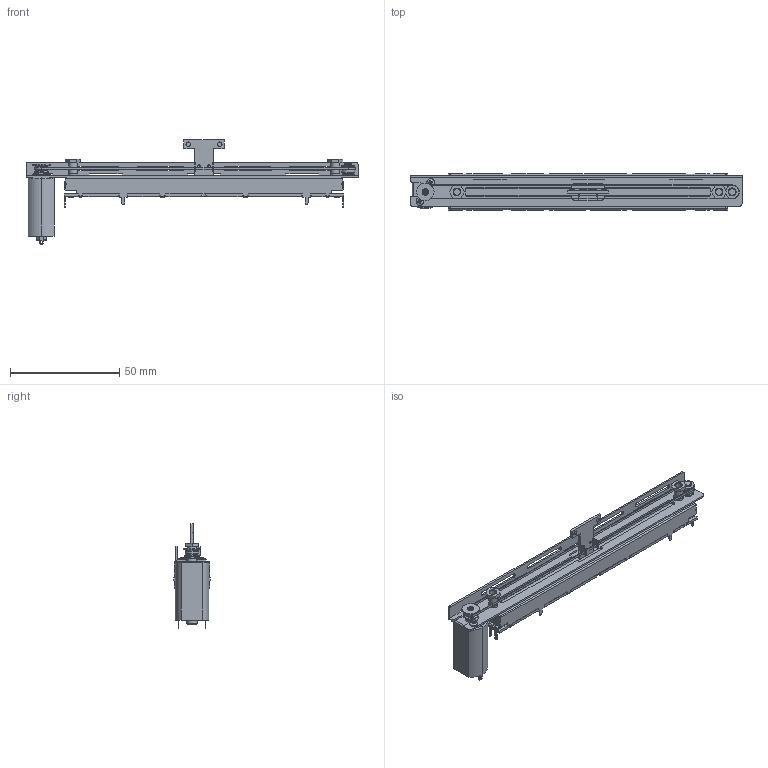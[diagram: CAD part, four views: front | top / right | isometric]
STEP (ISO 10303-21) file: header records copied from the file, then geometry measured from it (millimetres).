
FILE_DESCRIPTION(('FreeCAD Model'),'2;1');
FILE_NAME('Open CASCADE Shape Model','2023-03-17T16:16:45',(''),(''), 'Open CASCADE STEP processor 7.6','FreeCAD','Unknown');
FILE_SCHEMA(('AUTOMOTIVE_DESIGN { 1 0 10303 214 1 1 1 1 }'));
Products named in the file (1): Fusion002016
Bounding box: 152 x 16.5 x 47.8 mm (x, y, z)
Volume: 24638.4 mm3; surface area: 21594.7 mm2
Topology: 5 solids, 9 shells, 1305 faces, 3358 edges, 2083 vertices
Faces by surface type: plane 940, cylinder 322, cone 34, torus 6, sphere 2, bspline 1
Full cylindrical faces by diameter (mm): 0.5 x24, 1.2 x6, 1.25 x2, 1.3 x1, 1.5 x1, 2 x9, 3 x8, 3.2 x2, 3.5 x5, 3.7 x1, 4 x3, 4.5 x2, 4.7 x2, 5 x2, 5.38 x1, 5.6 x1, 6 x2, 6.5 x1, 8 x1
Entity records: 88649 total; most frequent: CARTESIAN_POINT 18593, DIRECTION 10670, ORIENTED_EDGE 7060, PCURVE 6712, DEFINITIONAL_REPRESENTATION 6712, LINE 6042, VECTOR 6042, EDGE_CURVE 3356
